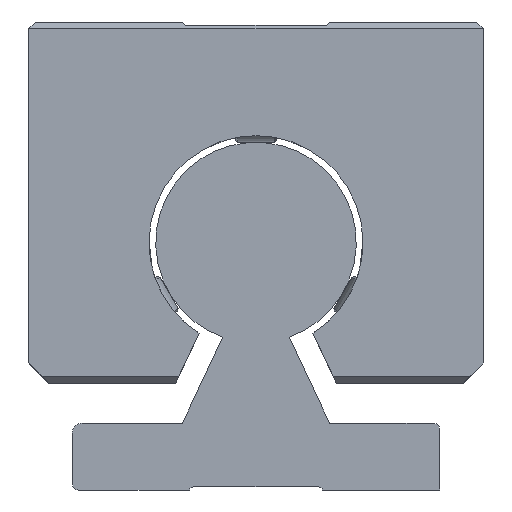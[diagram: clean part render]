
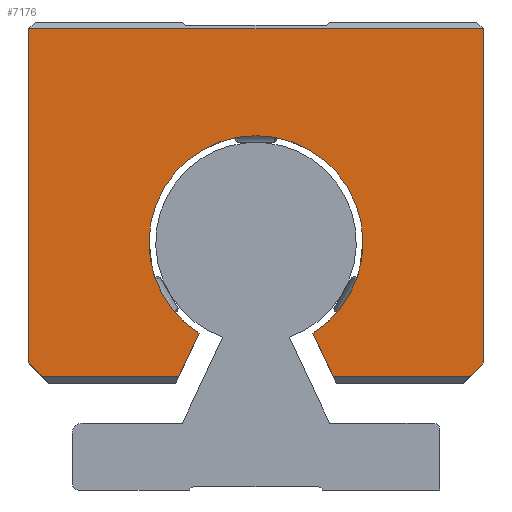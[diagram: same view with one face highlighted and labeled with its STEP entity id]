
A CAD part, left-side view. The second image highlights one B-rep face of the part: STEP entity #7176.
In plain terms, the highlighted planar face has unit normal (-1, 0, 0).
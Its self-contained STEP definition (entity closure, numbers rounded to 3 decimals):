
#5677=CARTESIAN_POINT('',(258.661,-34.,69.0));
#5678=VERTEX_POINT('',#5677);
#5687=CARTESIAN_POINT('',(258.661,-34.,19.0));
#5688=VERTEX_POINT('',#5687);
#5689=CARTESIAN_POINT('',(258.661,-34.,69.0));
#5690=DIRECTION('',(0.0,0.0,-1.0));
#5691=VECTOR('',#5690,50.0);
#5692=LINE('',#5689,#5691);
#5693=EDGE_CURVE('',#5678,#5688,#5692,.T.);
#5948=CARTESIAN_POINT('',(258.661,-8.522,23.458));
#5949=VERTEX_POINT('',#5948);
#5956=CARTESIAN_POINT('',(258.661,8.522,23.458));
#5957=VERTEX_POINT('',#5956);
#5958=CARTESIAN_POINT('',(258.661,0.,37.));
#5959=DIRECTION('',(-1.0,0.0,0.0));
#5960=DIRECTION('',(0.0,-1.0,0.0));
#5961=AXIS2_PLACEMENT_3D('',#5958,#5959,#5960);
#5962=CIRCLE('',#5961,16.0);
#5963=EDGE_CURVE('',#5949,#5957,#5962,.T.);
#6804=CARTESIAN_POINT('',(258.661,34.,69.0));
#6805=VERTEX_POINT('',#6804);
#6812=CARTESIAN_POINT('',(258.661,34.,69.0));
#6813=DIRECTION('',(0.0,-1.0,0.0));
#6814=VECTOR('',#6813,68.0);
#6815=LINE('',#6812,#6814);
#6816=EDGE_CURVE('',#6805,#5678,#6815,.T.);
#6826=CARTESIAN_POINT('',(258.661,32.,17.));
#6827=VERTEX_POINT('',#6826);
#6844=CARTESIAN_POINT('',(258.661,11.534,17.));
#6845=VERTEX_POINT('',#6844);
#6852=CARTESIAN_POINT('',(258.661,11.534,17.));
#6853=DIRECTION('',(0.0,1.0,0.0));
#6854=VECTOR('',#6853,20.466);
#6855=LINE('',#6852,#6854);
#6856=EDGE_CURVE('',#6845,#6827,#6855,.T.);
#6915=CARTESIAN_POINT('',(258.661,34.,19.0));
#6916=VERTEX_POINT('',#6915);
#6917=CARTESIAN_POINT('',(258.661,32.,17.));
#6918=DIRECTION('',(0.0,0.707,0.707));
#6919=VECTOR('',#6918,2.828);
#6920=LINE('',#6917,#6919);
#6921=EDGE_CURVE('',#6827,#6916,#6920,.T.);
#7102=CARTESIAN_POINT('',(258.661,-32.0,17.));
#7103=VERTEX_POINT('',#7102);
#7104=CARTESIAN_POINT('',(258.661,-34.,19.0));
#7105=DIRECTION('',(0.0,0.707,-0.707));
#7106=VECTOR('',#7105,2.828);
#7107=LINE('',#7104,#7106);
#7108=EDGE_CURVE('',#5688,#7103,#7107,.T.);
#7126=CARTESIAN_POINT('',(258.661,-11.534,17.));
#7127=VERTEX_POINT('',#7126);
#7128=CARTESIAN_POINT('',(258.661,-32.0,17.));
#7129=DIRECTION('',(0.0,1.0,0.0));
#7130=VECTOR('',#7129,20.466);
#7131=LINE('',#7128,#7130);
#7132=EDGE_CURVE('',#7103,#7127,#7131,.T.);
#7144=CARTESIAN_POINT('',(258.661,-22.5,69.75));
#7145=DIRECTION('',(1.0,0.0,0.0));
#7146=DIRECTION('',(0.0,0.0,-1.0));
#7147=AXIS2_PLACEMENT_3D('',#7144,#7145,#7146);
#7148=PLANE('',#7147);
#7149=ORIENTED_EDGE('',*,*,#6856,.F.);
#7150=CARTESIAN_POINT('',(258.661,8.522,23.458));
#7151=DIRECTION('',(0.0,0.423,-0.906));
#7152=VECTOR('',#7151,7.126);
#7153=LINE('',#7150,#7152);
#7154=EDGE_CURVE('',#5957,#6845,#7153,.T.);
#7155=ORIENTED_EDGE('',*,*,#7154,.F.);
#7156=ORIENTED_EDGE('',*,*,#5963,.F.);
#7157=CARTESIAN_POINT('',(258.661,-11.534,17.));
#7158=DIRECTION('',(0.0,0.423,0.906));
#7159=VECTOR('',#7158,7.126);
#7160=LINE('',#7157,#7159);
#7161=EDGE_CURVE('',#7127,#5949,#7160,.T.);
#7162=ORIENTED_EDGE('',*,*,#7161,.F.);
#7163=ORIENTED_EDGE('',*,*,#7132,.F.);
#7164=ORIENTED_EDGE('',*,*,#7108,.F.);
#7165=ORIENTED_EDGE('',*,*,#5693,.F.);
#7166=ORIENTED_EDGE('',*,*,#6816,.F.);
#7167=CARTESIAN_POINT('',(258.661,34.,19.0));
#7168=DIRECTION('',(0.0,0.0,1.0));
#7169=VECTOR('',#7168,50.0);
#7170=LINE('',#7167,#7169);
#7171=EDGE_CURVE('',#6916,#6805,#7170,.T.);
#7172=ORIENTED_EDGE('',*,*,#7171,.F.);
#7173=ORIENTED_EDGE('',*,*,#6921,.F.);
#7174=EDGE_LOOP('',(#7149,#7155,#7156,#7162,#7163,#7164,#7165,#7166,#7172,#7173));
#7175=FACE_OUTER_BOUND('',#7174,.T.);
#7176=ADVANCED_FACE('',(#7175),#7148,.F.);
